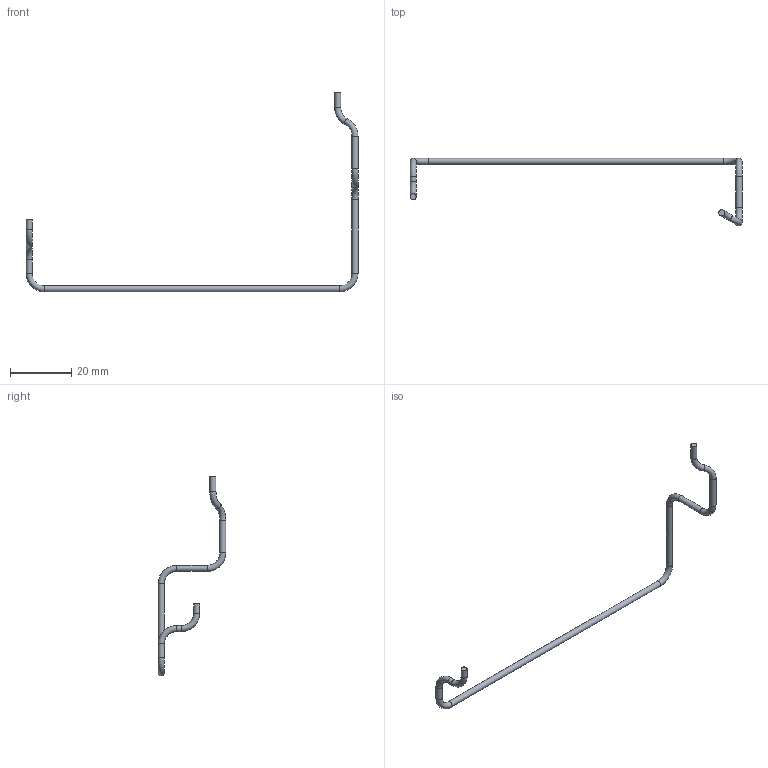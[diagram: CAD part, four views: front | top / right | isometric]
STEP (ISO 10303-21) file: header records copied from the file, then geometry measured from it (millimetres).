
FILE_DESCRIPTION(('Open CASCADE Model'),'2;1');
FILE_NAME('Open CASCADE Shape Model','2026-10-07T05:38:01',('Author'),( 'Open CASCADE'),'Open CASCADE STEP processor 7.7','Open CASCADE 7.7' ,'Unknown');
FILE_SCHEMA(('AUTOMOTIVE_DESIGN { 1 0 10303 214 1 1 1 1 }'));
Length unit declared in the file: millimetre
Products named in the file (1): Open CASCADE STEP translator 7.7 2
Bounding box: 108 x 22 x 65 mm (x, y, z)
Volume: 671.5 mm3; surface area: 1349.4 mm2
Topology: 1 solids, 1 shells, 18 faces, 33 edges, 17 vertices
Faces by surface type: cylinder 8, torus 8, plane 2
Full cylindrical faces by diameter (mm): 2 x8
Entity records: 850 total; most frequent: CARTESIAN_POINT 166, DIRECTION 131, ORIENTED_EDGE 66, PCURVE 66, DEFINITIONAL_REPRESENTATION 66, AXIS2_PLACEMENT_3D 44, LINE 41, VECTOR 41
